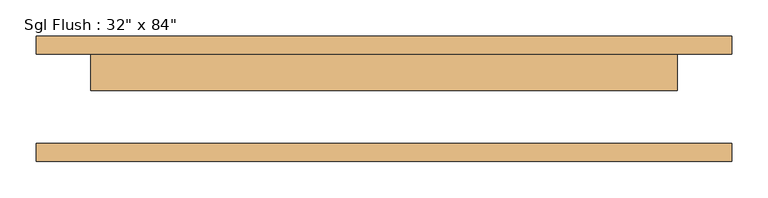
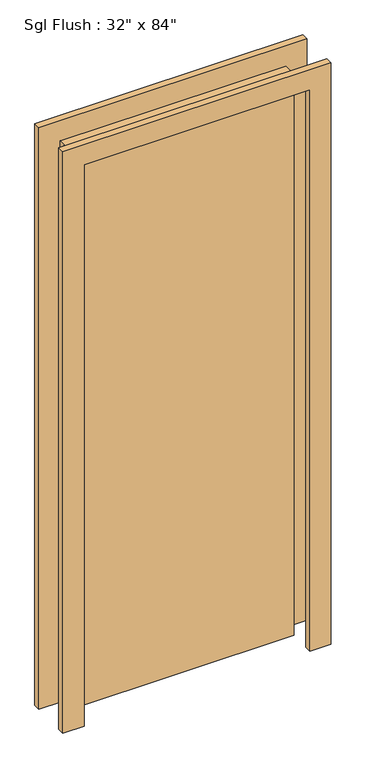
"""IFC4 building model written with IfcOpenShell, lengths in millimetres: door geometry."""

from ifc_helpers import new_model, si_unit, frame, origin, origin_with_axes, place, context, project, spatial, polyline, outline, extrude, source, transform, mapped, element, save


def door_8a652669(model_context):
    return source(origin(), model_context, "Body", "SweptSolid", [
        extrude(outline(polyline([(2209.8, -482.6), (0.0, -482.6), (0.0, -406.4), (2133.6, -406.4), (2133.6, 406.4), (0.0, 406.4), (0.0, 482.6), (2209.8, 482.6), (2209.8, -482.6)])), frame((0.0, 61.9125, 0.0), z_axis=(0.0, 1.0, 0.0), x_axis=(0.0, 0.0, 1.0)), (0.0, 0.0, 1.0), 25.4),
        extrude(outline(polyline([(2209.8, 482.6), (2209.8, -482.6), (0.0, -482.6), (0.0, -406.4), (2133.6, -406.4), (2133.6, 406.4), (0.0, 406.4), (0.0, 482.6), (2209.8, 482.6)])), frame((0.0, -87.3125, 0.0), z_axis=(0.0, 1.0, 0.0), x_axis=(0.0, 0.0, 1.0)), (0.0, 0.0, 1.0), 25.4),
        extrude(outline(polyline([(406.4, 11.1125), (-406.4, 11.1125), (-406.4, 61.9125), (406.4, 61.9125), (406.4, 11.1125)])), origin_with_axes(), (0.0, 0.0, 1.0), 2133.6),
    ])


if __name__ == "__main__":
    model = new_model("IFC4")
    model_context = context("Model", 3, world=origin())
    ifc_project = project(units=[si_unit("LENGTHUNIT", "METRE", prefix="MILLI")], contexts=[model_context])
    site = spatial("IfcSite", under=ifc_project)
    building = spatial("IfcBuilding", under=site)
    placement = place(None, origin())
    door_shape = door_8a652669(model_context)
    element("IfcDoor", 1, ObjectType="Sgl Flush : 32\" x 84\"", at=placement, inside=building, context=model_context, shape_type="MappedRepresentation", body=[
        mapped(door_shape, transform((0.0, 0.0, 0.0), x_axis=(1.0, 0.0, 0.0), y_axis=(0.0, 1.0, 0.0), z_axis=(0.0, 0.0, 1.0))),
    ])
    save(model, "model.ifc")
